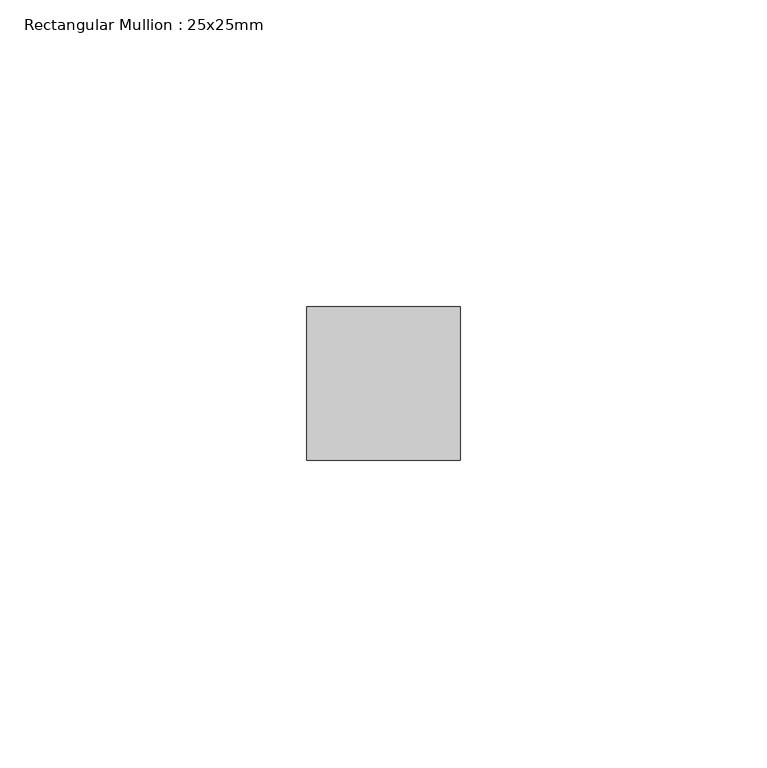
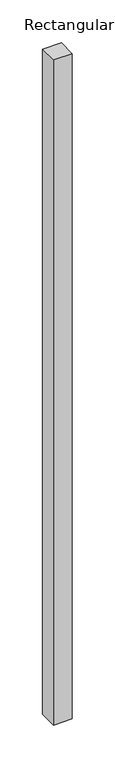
"""IFC4 building model written with IfcOpenShell, lengths in millimetres: member geometry, Rectangular Mullion : 25x25mm."""

from ifc_helpers import new_model, si_unit, frame, origin, place, context, project, spatial, polyline, outline, extrude, source, transform, mapped, element, save


def rectangular_mullion_25x25mm_b4c38ae9(model_context):
    return source(origin(), model_context, "Body", "SweptSolid", [
        extrude(outline(polyline([(12.5, 24.5), (12.5, -0.5), (-12.5, -0.5), (-12.5, 24.5), (12.5, 24.5)])), frame((0.0, 0.0, -945.0), z_axis=(0.0, 0.0, 1.0), x_axis=(1.0, 0.0, 0.0)), (0.0, 0.0, 1.0), 945.0),
    ])


if __name__ == "__main__":
    model = new_model("IFC4")
    model_context = context("Model", 3, world=origin())
    ifc_project = project(units=[si_unit("LENGTHUNIT", "METRE", prefix="MILLI")], contexts=[model_context])
    site = spatial("IfcSite", under=ifc_project)
    building = spatial("IfcBuilding", under=site)
    placement = place(None, origin())
    rectangular_mullion_25x25mm_shape = rectangular_mullion_25x25mm_b4c38ae9(model_context)
    element("IfcMember", 1, ObjectType="Rectangular Mullion : 25x25mm", at=placement, inside=building, context=model_context, shape_type="MappedRepresentation", body=[
        mapped(rectangular_mullion_25x25mm_shape, transform((0.0, 0.0, 0.0), x_axis=(1.0, 0.0, 0.0), y_axis=(0.0, 1.0, 0.0), z_axis=(0.0, 0.0, 1.0))),
    ])
    save(model, "model.ifc")
